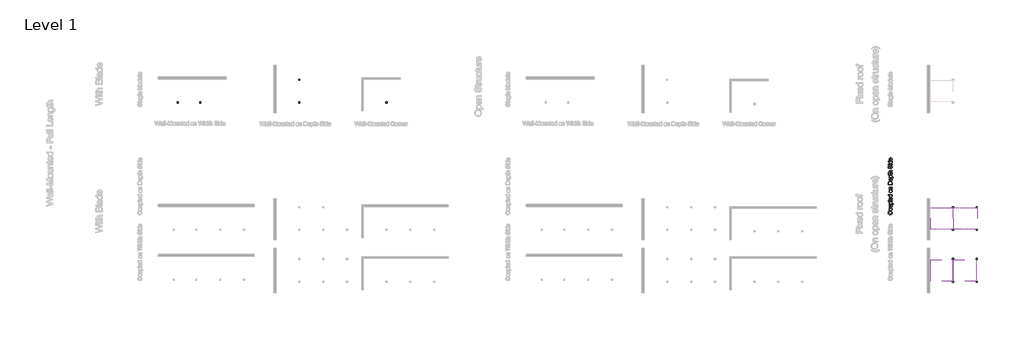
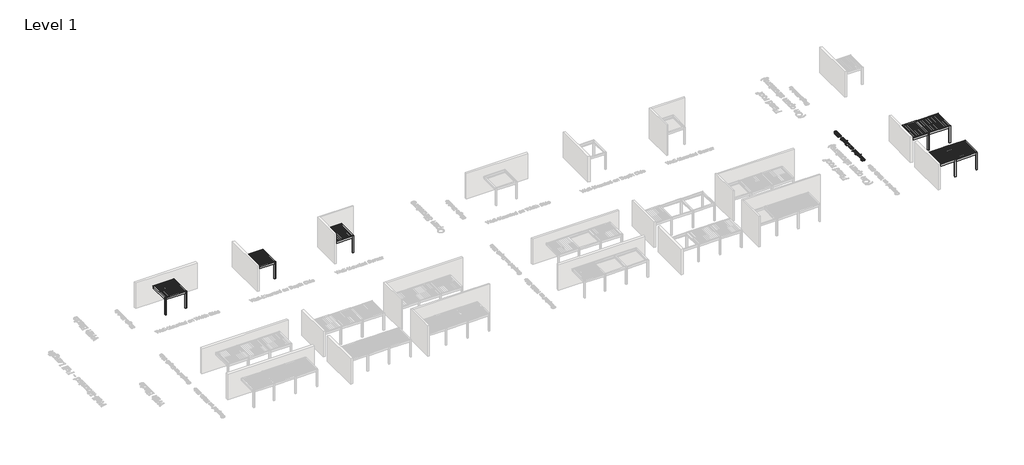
# One storey, part 69 of 80: 10 proxies.
"""IFC4 building model written with IfcOpenShell, lengths in millimetres."""

from ifc_helpers import new_model, si_unit, origin, origin_with_axes, place, context, project, spatial, polyline, outline, extrude, transform, mapped, element, save
from components import generic_models_0899c663, generic_models_97cd0588, generic_models_cd5bc85e, generic_models_6c670f7b, generic_models_b0ea3fea, generic_models_f0f07288, generic_models_2ccb9494

model = new_model("IFC4")

# Units and contexts
model_context = context("Model", 3, world=origin())
ifc_project = project(units=[si_unit("LENGTHUNIT", "METRE", prefix="MILLI")], contexts=[model_context])

# Site, building, storey
site = spatial("IfcSite", under=ifc_project)
building = spatial("IfcBuilding", under=site)
storey = spatial("IfcBuildingStorey", under=building, Name="Level 1", Elevation=0.0)

# Proxies
placement = place(None, origin())
generic_models_shape = generic_models_0899c663(model_context)
element("IfcBuildingElementProxy", 1, Name="Renson_Amani_Fixed_Roof : Renson_Amani_Fixed_Roof", ObjectType="Renson_Amani_Fixed_Roof : Renson_Amani_Fixed_Roof", at=placement, inside=storey, context=model_context, shape_type="MappedRepresentation", body=[
    mapped(generic_models_shape, transform((225303.165057, 50159.4960358, 0.0), x_axis=(1.0, 0.0, 0.0), y_axis=(0.0, 1.0, 0.0), z_axis=(0.0, 0.0, 1.0))),
])
element("IfcBuildingElementProxy", 2, Name="Renson_Amani_Fixed_Roof : Renson_Amani_Fixed_Roof", ObjectType="Renson_Amani_Fixed_Roof : Renson_Amani_Fixed_Roof", at=placement, inside=storey, context=model_context, shape_type="MappedRepresentation", body=[
    mapped(generic_models_shape, transform((225303.165057, 46334.0685101, 0.0), x_axis=(0.0, -1.0, 0.0), y_axis=(1.0, 0.0, 0.0), z_axis=(0.0, 0.0, 1.0))),
])
generic_models_2_shape = generic_models_97cd0588(model_context)
element("IfcBuildingElementProxy", 3, Name="Renson_Amani_Fixed_Roof : Renson_Amani_Fixed_Roof", ObjectType="Renson_Amani_Fixed_Roof : Renson_Amani_Fixed_Roof", at=placement, inside=storey, context=model_context, shape_type="MappedRepresentation", body=[
    mapped(generic_models_2_shape, transform((228153.165057, 46334.0685101, 0.0), x_axis=(0.0, -1.0, 0.0), y_axis=(1.0, 0.0, 0.0), z_axis=(0.0, 0.0, 1.0))),
])
generic_models_3_shape = generic_models_cd5bc85e(model_context)
element("IfcBuildingElementProxy", 4, Name="Renson_Amani_Fixed_Roof : Renson_Amani_Fixed_Roof", ObjectType="Renson_Amani_Fixed_Roof : Renson_Amani_Fixed_Roof", at=placement, inside=storey, context=model_context, shape_type="MappedRepresentation", body=[
    mapped(generic_models_3_shape, transform((228153.165057, 50159.4960358, 0.0), x_axis=(1.0, 0.0, 0.0), y_axis=(0.0, 1.0, 0.0), z_axis=(0.0, 0.0, 1.0))),
])
generic_models_4_shape = generic_models_6c670f7b(model_context)
element("IfcBuildingElementProxy", 5, Name="Renson_Amani_Patio_Cover : Renson_Amani_Patio_Cover", ObjectType="Renson_Amani_Patio_Cover : Renson_Amani_Patio_Cover", at=placement, inside=storey, context=model_context, shape_type="MappedRepresentation", body=[
    mapped(generic_models_4_shape, transform((131953.165057, 67528.5861401, 0.0), x_axis=(1.0, 0.0, 0.0), y_axis=(0.0, 1.0, 0.0), z_axis=(0.0, 0.0, 1.0))),
])
generic_models_5_shape = generic_models_b0ea3fea(model_context)
element("IfcBuildingElementProxy", 6, Name="Renson_Amani_Patio_Cover : Renson_Amani_Patio_Cover", ObjectType="Renson_Amani_Patio_Cover : Renson_Amani_Patio_Cover", at=placement, inside=storey, context=model_context, shape_type="MappedRepresentation", body=[
    mapped(generic_models_5_shape, transform((144410.3328818, 67528.5861401, 0.0), x_axis=(1.0, 0.0, 0.0), y_axis=(0.0, 1.0, 0.0), z_axis=(0.0, 0.0, 1.0))),
])
generic_models_6_shape = generic_models_f0f07288(model_context)
element("IfcBuildingElementProxy", 7, Name="Renson_Amani_Patio_Cover : Renson_Amani_Patio_Cover", ObjectType="Renson_Amani_Patio_Cover : Renson_Amani_Patio_Cover", at=placement, inside=storey, context=model_context, shape_type="MappedRepresentation", body=[
    mapped(generic_models_6_shape, transform((155374.0111744, 67528.5861401, 0.0), x_axis=(1.0, 0.0, 0.0), y_axis=(0.0, 1.0, 0.0), z_axis=(0.0, 0.0, 1.0))),
])
generic_models_7_shape = generic_models_2ccb9494(model_context)
element("IfcBuildingElementProxy", 8, Name="Renson_Amani_Patio_Cover : Renson_Amani_Patio_Cover", ObjectType="Renson_Amani_Patio_Cover : Renson_Amani_Patio_Cover", at=placement, inside=storey, context=model_context, shape_type="MappedRepresentation", body=[
    mapped(generic_models_7_shape, transform((226653.165057, 51509.4960358, 0.0), x_axis=(1.0, 0.0, 0.0), y_axis=(0.0, 1.0, 0.0), z_axis=(0.0, 0.0, 1.0))),
])
element("IfcBuildingElementProxy", 9, Name="Renson_Amani_Patio_Cover : Renson_Amani_Patio_Cover", ObjectType="Renson_Amani_Patio_Cover : Renson_Amani_Patio_Cover", at=placement, inside=storey, context=model_context, shape_type="MappedRepresentation", body=[
    mapped(generic_models_7_shape, transform((226653.165057, 44984.0685101, 0.0), x_axis=(1.0, 0.0, 0.0), y_axis=(0.0, 1.0, 0.0), z_axis=(0.0, 0.0, 1.0))),
])
element("IfcBuildingElementProxy", 10, Name="500mm Arial", ObjectType="500mm Arial", at=placement, inside=storey, context=model_context, shape_type="SweptSolid", body=[
    extrude(outline(polyline([(220234.4472638, 52366.9601072), (220250.6340716, 52429.7453011), (220289.6793805, 52417.3216195), (220323.7966034, 52400.7745939), (220352.9857405, 52380.1042243), (220377.2467916, 52355.3105107), (220396.3191738, 52326.9529402), (220409.942304, 52295.5910002), (220418.116182, 52261.2246904), (220420.8408081, 52223.8540111), (220418.779136, 52185.5674589), (220412.59412, 52151.0287045), (220402.2857599, 52120.2377479), (220387.8540558, 52093.1945891), (220369.5136055, 52069.5275141), (220347.4790069, 52048.8648087), (220321.7502598, 52031.206473), (220292.3273644, 52016.5525068), (220260.4825792, 52005.0446982), (220227.4881628, 51996.8248348), (220193.3441151, 51991.8929168), (220158.0504362, 51990.2489442), (220120.1815833, 51992.1075147), (220084.8112623, 51997.6832261), (220051.9394732, 52006.9760786), (220021.566216, 52019.9860721), (219994.1934963, 52036.4219667), (219970.3233197, 52055.9925224), (219949.9556863, 52078.6977393), (219933.0905961, 52104.5376173), (219919.8660048, 52132.6346047), (219910.4198682, 52162.1111496), (219904.7521862, 52192.9672519), (219902.8629589, 52225.2029117), (219905.3078413, 52261.1135594), (219912.6424886, 52294.0428301), (219924.8669007, 52323.9907238), (219941.9810777, 52350.9572404), (219963.5328312, 52374.497856), (219989.0699731, 52394.1680465), (220018.5925032, 52409.9678117), (220052.1004216, 52421.8971518), (220067.060956, 52359.111958), (220042.3707092, 52349.2251294), (220021.2749761, 52337.3456066), (220003.7737566, 52323.4733897), (219989.8670507, 52307.6084787), (219979.2712828, 52289.658903), (219971.7028772, 52269.5326922), (219967.1618338, 52247.2298462), (219965.6481527, 52222.7503651), (219967.3266143, 52194.5843999), (219972.3619991, 52168.824996), (219980.7543071, 52145.4721535), (219992.5035383, 52124.5258724), (220007.0808624, 52106.2505679), (220023.9574489, 52090.9106551), (220043.1332979, 52078.5061341), (220064.6084094, 52069.0370048), (220110.563002, 52057.0348547), (220157.9278088, 52053.034138), (220215.9305368, 52057.7706187), (220266.0851154, 52071.9800608), (220287.7403358, 52082.771266), (220306.4754928, 52096.1989588), (220322.2905865, 52112.2631392), (220335.1856169, 52130.9638073), (220352.3381149, 52172.6417717), (220358.0556142, 52217.6000172), (220356.1089053, 52244.8960948), (220350.2687787, 52270.0078731), (220340.5352342, 52292.935352), (220326.908272, 52313.6785316), (220309.4492056, 52331.7469025), (220288.2193488, 52346.6499554), (220263.2187015, 52358.3876903), (220234.4472638, 52366.9601072)])), origin_with_axes(), (0.0, 0.0, 1.0), 5.0),
    extrude(outline(polyline([(220228.5611519, 52492.5304949), (220180.790142, 52495.9257392), (220139.6256796, 52506.1114719), (220105.0677647, 52523.0876931), (220077.1163972, 52546.8544029), (220059.2511278, 52570.782061), (220046.4902211, 52597.1929225), (220038.8336771, 52626.0869876), (220036.2814958, 52657.4642561), (220039.3893322, 52692.1026452), (220048.7128415, 52723.4224321), (220064.2520237, 52751.4236169), (220086.0068788, 52776.1061995), (220113.2416427, 52796.2515709), (220145.2205516, 52810.6411218), (220181.9436053, 52819.2748524), (220223.410804, 52822.1527626), (220286.8397913, 52817.0637283), (220312.8751067, 52810.7024355), (220335.1243032, 52801.7966255), (220354.3423053, 52790.4574294), (220371.2840376, 52776.7959783), (220385.9495001, 52760.812272), (220398.3386927, 52742.5063106), (220415.2152792, 52701.7787081), (220420.8408081, 52657.4642561), (220417.7444679, 52622.3200292), (220408.4554476, 52590.7090024), (220392.9737469, 52562.6311755), (220371.299366, 52538.0865486), (220343.8001869, 52518.1557751), (220310.8440915, 52503.9195083), (220272.4310798, 52495.3777483), (220228.5611519, 52492.5304949)]), holes=[polyline([(220228.4385246, 52555.3156888), (220258.892256, 52557.1321061), (220285.2609644, 52562.5813582), (220307.5446499, 52571.6634449), (220325.7433123, 52584.3783664), (220339.8799444, 52599.8447386), (220349.9775387, 52617.1811776), (220356.0360954, 52636.3876834), (220358.0556142, 52657.4642561), (220356.024599, 52678.4335298), (220349.9315535, 52697.5633936), (220339.7764776, 52714.8538473), (220325.5593713, 52730.3048911), (220307.1806, 52743.0198126), (220284.5405289, 52752.1018993), (220257.639158, 52757.5511514), (220226.4764873, 52759.3675687), (220196.9884461, 52757.5396551), (220171.3095164, 52752.0559141), (220149.4396982, 52742.9163458), (220131.3789915, 52730.1209501), (220117.2423594, 52714.6124248), (220107.1447651, 52697.3334673), (220101.0862085, 52678.2840777), (220099.0666896, 52657.4642561), (220101.0785443, 52636.3876834), (220107.1141083, 52617.1811776), (220117.1733816, 52599.8447386), (220131.2563642, 52584.3783664), (220149.4013772, 52571.6634449), (220171.6467416, 52562.5813582), (220197.9924574, 52557.1321061), (220228.4385246, 52555.3156888)])]), origin_with_axes(), (0.0, 0.0, 1.0), 5.0),
    extrude(outline(polyline([(220412.9926588, 53128.2305826), (220349.5943283, 53128.2305826), (220380.7646632, 53105.5138694), (220403.0291881, 53079.0570226), (220416.3879031, 53048.8600421), (220420.8408081, 53014.9229281), (220417.7138111, 52984.3427372), (220408.3328202, 52955.8778678), (220394.2306771, 52931.996195), (220376.9402233, 52915.1655937), (220355.9402927, 52903.8378939), (220330.7097192, 52896.4649256), (220272.3391093, 52892.7861057), (220044.129645, 52892.7861057), (220044.129645, 52955.5712995), (220242.7859224, 52955.5712995), (220306.7973896, 52959.3727468), (220328.1498737, 52968.5238114), (220344.3826667, 52984.2047815), (220354.6373773, 53005.3733246), (220358.0556142, 53030.9871085), (220354.5607353, 53058.0724204), (220344.0760984, 53083.4102928), (220327.5673939, 53104.3029245), (220306.0003119, 53118.052514), (220276.4624534, 53125.6860654), (220236.0414192, 53128.2305826), (220044.129645, 53128.2305826), (220044.129645, 53191.0157764), (220412.9926588, 53191.0157764), (220412.9926588, 53128.2305826)])), origin_with_axes(), (0.0, 0.0, 1.0), 5.0),
    extrude(outline(polyline([(220554.259345, 53277.345418), (220044.129645, 53277.345418), (220044.129645, 53340.1306118), (220105.6885655, 53340.1306118), (220075.3229725, 53360.6093762), (220053.6332632, 53383.5406872), (220040.6194376, 53410.2734455), (220036.2814958, 53442.1565518), (220037.799009, 53464.0531947), (220042.3515487, 53484.6162654), (220049.9391148, 53503.8457639), (220060.5617075, 53521.7416901), (220073.943415, 53537.9131695), (220089.8083261, 53551.9693274), (220128.9877586, 53573.7356787), (220175.2489195, 53586.8874601), (220225.7407233, 53591.2713872), (220279.4361662, 53586.3203087), (220327.460095, 53571.4670731), (220348.735937, 53560.4459417), (220367.3752914, 53547.1868614), (220383.3781582, 53531.6898324), (220396.7445374, 53513.9548545), (220414.8167404, 53475.2506029), (220420.8408081, 53434.5536572), (220416.8094345, 53405.690249), (220404.7153139, 53379.9231809), (220386.4591699, 53357.8655896), (220363.9417261, 53340.1306118), (220554.259345, 53340.1306118), (220554.259345, 53277.345418)]), holes=[polyline([(220231.5042079, 53340.1306118), (220261.762502, 53341.8282339), (220287.7901531, 53346.9211003), (220309.5871614, 53355.4092109), (220327.1535266, 53367.2925658), (220340.6731899, 53381.5978104), (220350.3300923, 53397.3515905), (220356.1242337, 53414.5539058), (220358.0556142, 53433.2047566), (220356.0552559, 53452.1238546), (220350.0541808, 53469.6404025), (220340.0523891, 53485.7544003), (220326.0498806, 53500.465848), (220307.8473861, 53512.7247491), (220285.245636, 53521.481107), (220258.2446304, 53526.7349217), (220226.8443693, 53528.4861933), (220196.8466583, 53526.7770749), (220170.8649923, 53521.6497196), (220148.8993715, 53513.1041274), (220130.9497959, 53501.1402984), (220117.0009369, 53486.8005648), (220107.0374662, 53471.1272589), (220101.0593838, 53454.1203808), (220099.0666896, 53435.7799305), (220101.1858432, 53417.4969618), (220107.5433039, 53400.2946464), (220118.1390718, 53384.1729844), (220132.9731468, 53369.1319758), (220151.8462596, 53356.443879), (220174.5591407, 53347.3809528), (220201.1117901, 53341.943197), (220231.5042079, 53340.1306118)])]), origin_with_axes(), (0.0, 0.0, 1.0), 5.0),
    extrude(outline(polyline([(220412.9926588, 53661.9047302), (219910.7111081, 53661.9047302), (219910.7111081, 53724.6899241), (220412.9926588, 53724.6899241), (220412.9926588, 53661.9047302)])), origin_with_axes(), (0.0, 0.0, 1.0), 5.0),
    extrude(outline(polyline([(220303.1185696, 54077.1208755), (220310.9667188, 54138.679796), (220335.6224767, 54129.2413236), (220357.3505071, 54116.4995774), (220376.1508099, 54100.4545574), (220392.0233851, 54081.1062638), (220404.6310077, 54058.6539657), (220413.6364523, 54033.2969328), (220419.0397191, 54005.0351649), (220420.8408081, 53973.8686622), (220417.7329716, 53934.9114917), (220408.4094623, 53900.2002926), (220392.8702801, 53869.7350649), (220371.115425, 53843.5158085), (220343.7503696, 53822.4315717), (220311.3805861, 53807.3714025), (220274.0060746, 53798.335301), (220231.6268352, 53795.3232672), (220187.8105567, 53798.3659578), (220149.1906115, 53807.4940298), (220115.7669994, 53822.7074832), (220087.5397204, 53844.0063179), (220065.1142471, 53870.1565963), (220049.0960519, 53899.9243811), (220039.4851348, 53933.3096722), (220036.2814958, 53970.3124695), (220039.4774706, 54006.1234825), (220049.0653951, 54038.5085944), (220065.0452693, 54067.4678052), (220087.4170931, 54093.0011149), (220115.5830584, 54113.8439292), (220148.9453568, 54128.7316537), (220187.5039884, 54137.6642884), (220231.2589532, 54140.6418333), (220248.181525, 54140.2739513), (220248.181525, 53858.108461), (220273.2358217, 53861.7451278), (220295.1784499, 53868.9763083), (220314.0094095, 53879.8020024), (220329.7287006, 53894.2222102), (220342.1217253, 53911.439854), (220350.9738858, 53930.6578561), (220356.2851821, 53951.8762166), (220358.0556142, 53975.0949355), (220354.7753331, 54008.5108834), (220344.9344897, 54036.653856), (220327.9199474, 54059.5238534), (220303.1185696, 54077.1208755)]), holes=[polyline([(220185.3963312, 53858.108461), (220185.3963312, 54077.8566395), (220152.2256379, 54069.3646967), (220128.4972492, 54052.7180365), (220115.6213794, 54035.5961953), (220106.4243295, 54016.1137779), (220100.9060996, 53994.2707845), (220099.0666896, 53970.0672149), (220104.9374731, 53927.745457), (220112.2759525, 53909.3321967), (220122.5498236, 53892.7506822), (220135.2839056, 53878.8363122), (220150.0030175, 53868.4244853), (220166.7071594, 53861.5152016), (220185.3963312, 53858.108461)])]), origin_with_axes(), (0.0, 0.0, 1.0), 5.0),
    extrude(outline(polyline([(220412.9926588, 54431.0233548), (220353.7636576, 54431.0233548), (220383.1099109, 54412.2383805), (220404.0715205, 54389.4833462), (220416.6484862, 54362.7582521), (220420.8408081, 54332.0630981), (220414.7707551, 54291.4734513), (220396.5605964, 54254.3173698), (220367.4825903, 54222.8634592), (220328.8089956, 54199.3803252), (220282.1033106, 54184.7570159), (220228.9290339, 54179.8825795), (220176.4138791, 54184.3738055), (220128.9877586, 54197.8474836), (220107.8575365, 54207.94891), (220089.3484736, 54220.2882853), (220073.4605699, 54234.8656093), (220060.1938255, 54251.6808822), (220042.2595782, 54289.6493698), (220036.2814958, 54331.8178435), (220040.558124, 54362.5359901), (220053.3880085, 54389.697944), (220073.0543669, 54412.7212256), (220097.8404163, 54431.0233548), (219910.7111081, 54431.0233548), (219910.7111081, 54493.8085487), (220412.9926588, 54493.8085487), (220412.9926588, 54431.0233548)]), holes=[polyline([(220228.6837793, 54242.6677733), (220259.1298465, 54244.4382054), (220285.4755623, 54249.7495017), (220307.7209267, 54258.6016622), (220325.8659396, 54270.9946869), (220339.9489223, 54285.794273), (220350.0081956, 54301.8661177), (220356.0437596, 54319.2102209), (220358.0556142, 54337.8265827), (220356.1357301, 54356.5310829), (220350.3760776, 54373.7717193), (220340.7766568, 54389.548492), (220327.3374676, 54403.8614009), (220309.9512112, 54415.7447557), (220288.5105887, 54424.2328663), (220263.0156, 54429.3257327), (220233.4662452, 54431.0233548), (220201.069637, 54429.2950759), (220173.2868821, 54424.110239), (220150.1179807, 54415.4688442), (220131.5629325, 54403.3708915), (220117.3458263, 54388.7437501), (220107.1907503, 54372.5147892), (220101.0977048, 54354.6840087), (220099.0666896, 54335.2514088), (220101.0172306, 54316.267165), (220106.8688536, 54298.9230617), (220116.6215586, 54283.2190991), (220130.2753455, 54269.155277), (220148.1291186, 54257.5669941), (220170.4817819, 54249.2896492), (220197.3333355, 54244.3232423), (220228.6837793, 54242.6677733)])]), origin_with_axes(), (0.0, 0.0, 1.0), 5.0),
    extrude(outline(polyline([(220228.5611519, 54768.4937717), (220180.790142, 54771.889016), (220139.6256796, 54782.0747487), (220105.0677647, 54799.05097), (220077.1163972, 54822.8176797), (220059.2511278, 54846.7453378), (220046.4902211, 54873.1561994), (220038.8336771, 54902.0502644), (220036.2814958, 54933.4275329), (220039.3893322, 54968.065922), (220048.7128415, 54999.385709), (220064.2520237, 55027.3868937), (220086.0068788, 55052.0694764), (220113.2416427, 55072.2148477), (220145.2205516, 55086.6043987), (220181.9436053, 55095.2381292), (220223.410804, 55098.1160394), (220286.8397913, 55093.0270052), (220312.8751067, 55086.6657123), (220335.1243032, 55077.7599024), (220354.3423053, 55066.4207063), (220371.2840376, 55052.7592551), (220385.9495001, 55036.7755488), (220398.3386927, 55018.4695875), (220415.2152792, 54977.7419849), (220420.8408081, 54933.4275329), (220417.7444679, 54898.2833061), (220408.4554476, 54866.6722792), (220392.9737469, 54838.5944523), (220371.299366, 54814.0498255), (220343.8001869, 54794.119052), (220310.8440915, 54779.8827852), (220272.4310798, 54771.3410251), (220228.5611519, 54768.4937717)]), holes=[polyline([(220228.4385246, 54831.2789656), (220258.892256, 54833.0953829), (220285.2609644, 54838.544635), (220307.5446499, 54847.6267217), (220325.7433123, 54860.3416432), (220339.8799444, 54875.8080154), (220349.9775387, 54893.1444544), (220356.0360954, 54912.3509603), (220358.0556142, 54933.4275329), (220356.024599, 54954.3968066), (220349.9315535, 54973.5266704), (220339.7764776, 54990.8171242), (220325.5593713, 55006.268168), (220307.1806, 55018.9830894), (220284.5405289, 55028.0651762), (220257.639158, 55033.5144282), (220226.4764873, 55035.3308456), (220196.9884461, 55033.5029319), (220171.3095164, 55028.0191909), (220149.4396982, 55018.8796226), (220131.3789915, 55006.084227), (220117.2423594, 54990.5757016), (220107.1447651, 54973.2967441), (220101.0862085, 54954.2473546), (220099.0666896, 54933.4275329), (220101.0785443, 54912.3509603), (220107.1141083, 54893.1444544), (220117.1733816, 54875.8080154), (220131.2563642, 54860.3416432), (220149.4013772, 54847.6267217), (220171.6467416, 54838.544635), (220197.9924574, 54833.0953829), (220228.4385246, 54831.2789656)])]), origin_with_axes(), (0.0, 0.0, 1.0), 5.0),
    extrude(outline(polyline([(220412.9926588, 55168.7493825), (220044.129645, 55168.7493825), (220044.129645, 55231.5345763), (220095.6331243, 55231.5345763), (220069.6667868, 55253.346913), (220051.1194029, 55279.5431767), (220039.9909726, 55310.1233676), (220036.2814958, 55345.0874855), (220039.270537, 55376.0355584), (220048.2376606, 55404.3778004), (220062.0638923, 55428.0142186), (220079.6302575, 55444.8448199), (220100.8907712, 55456.2644901), (220125.7994479, 55463.6681153), (220186.4999771, 55466.9790532), (220412.9926588, 55466.9790532), (220412.9926588, 55404.1938594), (220194.961263, 55404.1938594), (220162.495677, 55402.3851063), (220139.4110818, 55396.9588468), (220122.8717204, 55386.9493909), (220110.0418358, 55371.3910482), (220101.8104762, 55351.4487783), (220099.0666896, 55328.2875411), (220100.6071955, 55309.2228231), (220105.228713, 55291.51467), (220112.9312423, 55275.1630817), (220123.7147833, 55260.1680583), (220138.8056093, 55247.6409099), (220159.4299937, 55238.6929468), (220185.5879364, 55233.324169), (220217.2794374, 55231.5345763), (220412.9926588, 55231.5345763), (220412.9926588, 55168.7493825)])), origin_with_axes(), (0.0, 0.0, 1.0), 5.0),
    extrude(outline(polyline([(220412.9926588, 55757.3605748), (219910.7111081, 55757.3605748), (219910.7111081, 55930.6329945), (219912.5198612, 55982.4123853), (219917.9461207, 56020.273574), (219931.8949796, 56060.3113978), (219953.8759289, 56094.0952277), (219971.840833, 56112.7115895), (219992.1356564, 56128.8294194), (220014.7603991, 56142.4487174), (220039.7150611, 56153.5694836), (220095.694438, 56168.3767339), (220159.1540822, 56173.312484), (220213.0641229, 56169.9708892), (220260.5055718, 56159.9461048), (220300.8959492, 56144.679002), (220333.6527752, 56125.6104519), (220359.5118138, 56103.6601596), (220379.2088289, 56079.7478299), (220393.8168098, 56052.294636), (220404.4087456, 56019.721751), (220410.8466805, 55981.9678612), (220412.9926588, 55938.9716531), (220412.9926588, 55757.3605748)]), holes=[polyline([(220350.207465, 55820.1457686), (220350.207465, 55931.2461312), (220347.9388594, 55977.2007237), (220341.1330424, 56012.0575428), (220330.1885531, 56038.3611054), (220315.5039301, 56058.6559288), (220288.3266477, 56080.4682655), (220253.1479319, 56096.8543427), (220209.8144986, 56107.1090533), (220158.1730635, 56110.5272901), (220121.7220892, 56108.8526606), (220089.7470124, 56103.8287721), (220062.2478333, 56095.4556247), (220039.2245517, 56083.7332182), (220020.1560017, 56069.6119145), (220004.5210169, 56054.0420755), (219992.3195973, 56037.0237011), (219983.5517431, 56018.5567913), (219976.0101622, 55982.4430422), (219973.4963019, 55929.5293485), (219973.4963019, 55820.1457686), (220350.207465, 55820.1457686)])]), origin_with_axes(), (0.0, 0.0, 1.0), 5.0),
    extrude(outline(polyline([(220303.1185696, 56510.0471369), (220310.9667188, 56571.6060574), (220335.6224767, 56562.167585), (220357.3505071, 56549.4258388), (220376.1508099, 56533.3808189), (220392.0233851, 56514.0325252), (220404.6310077, 56491.5802272), (220413.6364523, 56466.2231942), (220419.0397191, 56437.9614264), (220420.8408081, 56406.7949236), (220417.7329716, 56367.8377531), (220408.4094623, 56333.1265541), (220392.8702801, 56302.6613263), (220371.115425, 56276.44207), (220343.7503696, 56255.3578331), (220311.3805861, 56240.2976639), (220274.0060746, 56231.2615624), (220231.6268352, 56228.2495286), (220187.8105567, 56231.2922193), (220149.1906115, 56240.4202913), (220115.7669994, 56255.6337446), (220087.5397204, 56276.9325793), (220065.1142471, 56303.0828578), (220049.0960519, 56332.8506426), (220039.4851348, 56366.2359336), (220036.2814958, 56403.238731), (220039.4774706, 56439.0497439), (220049.0653951, 56471.4348558), (220065.0452693, 56500.3940666), (220087.4170931, 56525.9273764), (220115.5830584, 56546.7701907), (220148.9453568, 56561.6579151), (220187.5039884, 56570.5905498), (220231.2589532, 56573.5680947), (220248.181525, 56573.2002127), (220248.181525, 56291.0347224), (220273.2358217, 56294.6713893), (220295.1784499, 56301.9025697), (220314.0094095, 56312.7282638), (220329.7287006, 56327.1484716), (220342.1217253, 56344.3661154), (220350.9738858, 56363.5841176), (220356.2851821, 56384.8024781), (220358.0556142, 56408.0211969), (220354.7753331, 56441.4371448), (220344.9344897, 56469.5801174), (220327.9199474, 56492.4501148), (220303.1185696, 56510.0471369)]), holes=[polyline([(220185.3963312, 56291.0347224), (220185.3963312, 56510.7829009), (220152.2256379, 56502.2909582), (220128.4972492, 56485.6442979), (220115.6213794, 56468.5224567), (220106.4243295, 56449.0400394), (220100.9060996, 56427.1970459), (220099.0666896, 56402.9934763), (220104.9374731, 56360.6717184), (220112.2759525, 56342.2584582), (220122.5498236, 56325.6769437), (220135.2839056, 56311.7625736), (220150.0030175, 56301.3507467), (220166.7071594, 56294.441463), (220185.3963312, 56291.0347224)])]), origin_with_axes(), (0.0, 0.0, 1.0), 5.0),
    extrude(outline(polyline([(220554.259345, 56636.3532886), (220044.129645, 56636.3532886), (220044.129645, 56699.1384824), (220105.6885655, 56699.1384824), (220075.3229725, 56719.6172468), (220053.6332632, 56742.5485579), (220040.6194376, 56769.2813162), (220036.2814958, 56801.1644224), (220037.799009, 56823.0610653), (220042.3515487, 56843.624136), (220049.9391148, 56862.8536345), (220060.5617075, 56880.7495607), (220073.943415, 56896.9210401), (220089.8083261, 56910.977198), (220128.9877586, 56932.7435494), (220175.2489195, 56945.8953307), (220225.7407233, 56950.2792578), (220279.4361662, 56945.3281793), (220327.460095, 56930.4749437), (220348.735937, 56919.4538123), (220367.3752914, 56906.194732), (220383.3781582, 56890.697703), (220396.7445374, 56872.9627251), (220414.8167404, 56834.2584736), (220420.8408081, 56793.5615279), (220416.8094345, 56764.6981197), (220404.7153139, 56738.9310516), (220386.4591699, 56716.8734603), (220363.9417261, 56699.1384824), (220554.259345, 56699.1384824), (220554.259345, 56636.3532886)]), holes=[polyline([(220231.5042079, 56699.1384824), (220261.762502, 56700.8361045), (220287.7901531, 56705.9289709), (220309.5871614, 56714.4170815), (220327.1535266, 56726.3004364), (220340.6731899, 56740.6056811), (220350.3300923, 56756.3594611), (220356.1242337, 56773.5617765), (220358.0556142, 56792.2126272), (220356.0552559, 56811.1317252), (220350.0541808, 56828.6482731), (220340.0523891, 56844.762271), (220326.0498806, 56859.4737187), (220307.8473861, 56871.7326197), (220285.245636, 56880.4889776), (220258.2446304, 56885.7427924), (220226.8443693, 56887.494064), (220196.8466583, 56885.7849455), (220170.8649923, 56880.6575902), (220148.8993715, 56872.111998), (220130.9497959, 56860.148169), (220117.0009369, 56845.8084354), (220107.0374662, 56830.1351295), (220101.0593838, 56813.1282515), (220099.0666896, 56794.7878012), (220101.1858432, 56776.5048324), (220107.5433039, 56759.3025171), (220118.1390718, 56743.180855), (220132.9731468, 56728.1398464), (220151.8462596, 56715.4517496), (220174.5591407, 56706.3888234), (220201.1117901, 56700.9510677), (220231.5042079, 56699.1384824)])]), origin_with_axes(), (0.0, 0.0, 1.0), 5.0),
    extrude(outline(polyline([(220360.6307882, 57154.3311378), (220414.8320688, 57162.179287), (220420.8408081, 57115.213019), (220418.2349773, 57085.0773522), (220410.4174849, 57062.6058937), (220398.3693495, 57046.7256542), (220383.0715899, 57036.3636447), (220356.7986841, 57030.6614737), (220311.8251102, 57028.7607501), (220106.9148388, 57028.7607501), (220106.9148388, 56981.6718547), (220044.129645, 56981.6718547), (220044.129645, 57028.7607501), (219954.4890655, 57028.7607501), (219917.5782387, 57091.5459439), (220044.129645, 57091.5459439), (220044.129645, 57154.3311378), (220106.9148388, 57154.3311378), (220106.9148388, 57091.5459439), (220309.9857002, 57091.5459439), (220342.3593158, 57094.8568819), (220353.8249713, 57105.5867734), (220358.0556142, 57126.9852428), (220360.6307882, 57154.3311378)])), origin_with_axes(), (0.0, 0.0, 1.0), 5.0),
    extrude(outline(polyline([(220412.9926588, 57217.1163316), (219910.7111081, 57217.1163316), (219910.7111081, 57279.9015255), (220095.3878697, 57279.9015255), (220069.5288311, 57302.9631281), (220051.0580892, 57328.8604877), (220039.9756441, 57357.5936043), (220036.2814958, 57389.162478), (220040.3128693, 57427.0849804), (220052.4069899, 57459.6731938), (220071.6134957, 57485.332963), (220096.982025, 57502.4701326), (220131.838844, 57512.1270349), (220179.5102192, 57515.3460024), (220412.9926588, 57515.3460024), (220412.9926588, 57452.5608085), (220186.0094678, 57452.5608085), (220146.707408, 57447.5637448), (220131.7008883, 57441.3174151), (220119.7907087, 57432.5725535), (220110.7239503, 57421.5360936), (220104.2476944, 57408.4149691), (220099.0666896, 57375.9187262), (220102.5615686, 57349.3852373), (220113.0462054, 57324.4765606), (220129.5089247, 57303.844512), (220150.9380509, 57290.1409077), (220179.4182487, 57282.461371), (220217.0341827, 57279.9015255), (220412.9926588, 57279.9015255), (220412.9926588, 57217.1163316)])), origin_with_axes(), (0.0, 0.0, 1.0), 5.0),
    extrude(outline(polyline([(220240.3333758, 57782.1830762), (220240.3333758, 57844.9682701), (220275.1748664, 57852.1726258), (220303.1798833, 57865.2017798), (220325.4060871, 57885.52726), (220342.9111388, 57914.6205945), (220354.2694954, 57950.1825207), (220358.0556142, 57989.9137762), (220355.1892003, 58024.8932225), (220346.5899587, 58055.5193986), (220332.9783249, 58080.3361049), (220315.0747345, 58097.8871418), (220294.519328, 58108.3257934), (220272.952246, 58111.8053439), (220251.936987, 58109.1995131), (220233.7728135, 58101.3820207), (220218.2757845, 58085.5017813), (220205.2619589, 58058.7077093), (220181.2883155, 57967.2890335), (220165.4234045, 57907.278283), (220150.3249143, 57868.8805998), (220129.2023564, 57837.6259586), (220103.6039009, 57815.4763968), (220074.0813708, 57802.2786302), (220041.186589, 57797.8793747), (220004.4137179, 57803.3209625), (219970.1240503, 57819.6457261), (219954.5963644, 57831.7819998), (219941.0613727, 57846.4244696), (219919.9694716, 57883.2279976), (219907.139587, 57927.4044938), (219902.8629589, 57976.3021423), (219907.3388565, 58029.2771497), (219920.7665493, 58075.630281), (219942.8701258, 58113.7060675), (219957.0719037, 58129.0191556), (219973.3736746, 58141.8490402), (220010.3764719, 58159.6606601), (220051.9777942, 58166.7423885), (220051.9777942, 58103.9571947), (220031.9435539, 58099.7572086), (220014.5151444, 58092.4302255), (219999.6925657, 58081.9762455), (219987.4758177, 58068.3952685), (219977.9262143, 58051.4343757), (219971.105069, 58030.8406481), (219965.6481527, 57978.754689), (219971.0437553, 57925.4424565), (219977.7882585, 57905.0633268), (219987.2305631, 57888.8688548), (219998.5812555, 57876.5294796), (220011.0509223, 57867.7156401), (220024.6395635, 57862.4273364), (220039.3471791, 57860.6645685), (220063.4741066, 57865.6616323), (220082.8798818, 57880.6528236), (220091.5097803, 57894.4177416), (220100.2316493, 57916.0921225), (220117.9512987, 57983.1692729), (220134.7819, 58052.3924017), (220149.466523, 58094.2696355), (220172.2445498, 58130.0614879), (220200.3568656, 58155.0314783), (220233.496902, 58169.7007729), (220271.3580907, 58174.5905377), (220310.0623423, 58168.9650089), (220346.4673314, 58152.0884224), (220377.7986146, 58124.6505569), (220401.2817487, 58087.3411912), (220415.9510432, 58042.4749162), (220420.8408081, 57992.3663228), (220415.5678328, 57930.8533875), (220408.9766137, 57904.1781108), (220399.748907, 57880.2236279), (220387.8693842, 57858.8443191), (220373.322717, 57839.8945642), (220356.1089053, 57823.3743634), (220336.2279492, 57809.2837165), (220314.323642, 57797.9330241), (220291.0397774, 57789.6326866), (220266.3763553, 57784.382704), (220240.3333758, 57782.1830762)])), origin_with_axes(), (0.0, 0.0, 1.0), 5.0),
    extrude(outline(polyline([(219973.4963019, 58260.9201793), (219910.7111081, 58260.9201793), (219910.7111081, 58323.7053731), (219973.4963019, 58323.7053731), (219973.4963019, 58260.9201793)])), origin_with_axes(), (0.0, 0.0, 1.0), 5.0),
    extrude(outline(polyline([(220412.9926588, 58260.9201793), (220044.129645, 58260.9201793), (220044.129645, 58323.7053731), (220412.9926588, 58323.7053731), (220412.9926588, 58260.9201793)])), origin_with_axes(), (0.0, 0.0, 1.0), 5.0),
    extrude(outline(polyline([(220412.9926588, 58645.4794916), (220353.7636576, 58645.4794916), (220383.1099109, 58626.6945172), (220404.0715205, 58603.939483), (220416.6484862, 58577.2143888), (220420.8408081, 58546.5192349), (220414.7707551, 58505.9295881), (220396.5605964, 58468.7735066), (220367.4825903, 58437.319596), (220328.8089956, 58413.8364619), (220282.1033106, 58399.2131526), (220228.9290339, 58394.3387162), (220176.4138791, 58398.8299422), (220128.9877586, 58412.3036203), (220107.8575365, 58422.4050467), (220089.3484736, 58434.744422), (220073.4605699, 58449.3217461), (220060.1938255, 58466.1370189), (220042.2595782, 58504.1055065), (220036.2814958, 58546.2739802), (220040.558124, 58576.9921268), (220053.3880085, 58604.1540808), (220073.0543669, 58627.1773623), (220097.8404163, 58645.4794916), (219910.7111081, 58645.4794916), (219910.7111081, 58708.2646854), (220412.9926588, 58708.2646854), (220412.9926588, 58645.4794916)]), holes=[polyline([(220228.6837793, 58457.12391), (220259.1298465, 58458.8943421), (220285.4755623, 58464.2056385), (220307.7209267, 58473.057799), (220325.8659396, 58485.4508237), (220339.9489223, 58500.2504098), (220350.0081956, 58516.3222544), (220356.0437596, 58533.6663577), (220358.0556142, 58552.2827195), (220356.1357301, 58570.9872197), (220350.3760776, 58588.2278561), (220340.7766568, 58604.0046287), (220327.3374676, 58618.3175376), (220309.9512112, 58630.2008925), (220288.5105887, 58638.6890031), (220263.0156, 58643.7818695), (220233.4662452, 58645.4794916), (220201.069637, 58643.7512126), (220173.2868821, 58638.5663757), (220150.1179807, 58629.924981), (220131.5629325, 58617.8270283), (220117.3458263, 58603.1998869), (220107.1907503, 58586.9709259), (220101.0977048, 58569.1401455), (220099.0666896, 58549.7075455), (220101.0172306, 58530.7233017), (220106.8688536, 58513.3791985), (220116.6215586, 58497.6752358), (220130.2753455, 58483.6114137), (220148.1291186, 58472.0231308), (220170.4817819, 58463.745786), (220197.3333355, 58458.779379), (220228.6837793, 58457.12391)])]), origin_with_axes(), (0.0, 0.0, 1.0), 5.0),
    extrude(outline(polyline([(220303.1185696, 59060.6956368), (220310.9667188, 59122.2545573), (220335.6224767, 59112.8160849), (220357.3505071, 59100.0743387), (220376.1508099, 59084.0293188), (220392.0233851, 59064.6810251), (220404.6310077, 59042.2287271), (220413.6364523, 59016.8716941), (220419.0397191, 58988.6099263), (220420.8408081, 58957.4434235), (220417.7329716, 58918.486253), (220408.4094623, 58883.775054), (220392.8702801, 58853.3098262), (220371.115425, 58827.0905699), (220343.7503696, 58806.006333), (220311.3805861, 58790.9461638), (220274.0060746, 58781.9100623), (220231.6268352, 58778.8980285), (220187.8105567, 58781.9407192), (220149.1906115, 58791.0687912), (220115.7669994, 58806.2822445), (220087.5397204, 58827.5810792), (220065.1142471, 58853.7313577), (220049.0960519, 58883.4991425), (220039.4851348, 58916.8844335), (220036.2814958, 58953.8872309), (220039.4774706, 58989.6982438), (220049.0653951, 59022.0833557), (220065.0452693, 59051.0425665), (220087.4170931, 59076.5758763), (220115.5830584, 59097.4186905), (220148.9453568, 59112.306415), (220187.5039884, 59121.2390497), (220231.2589532, 59124.2165946), (220248.181525, 59123.8487126), (220248.181525, 58841.6832223), (220273.2358217, 58845.3198891), (220295.1784499, 58852.5510696), (220314.0094095, 58863.3767637), (220329.7287006, 58877.7969715), (220342.1217253, 58895.0146153), (220350.9738858, 58914.2326175), (220356.2851821, 58935.450978), (220358.0556142, 58958.6696968), (220354.7753331, 58992.0856447), (220344.9344897, 59020.2286173), (220327.9199474, 59043.0986147), (220303.1185696, 59060.6956368)]), holes=[polyline([(220185.3963312, 58841.6832223), (220185.3963312, 59061.4314008), (220152.2256379, 59052.9394581), (220128.4972492, 59036.2927978), (220115.6213794, 59019.1709566), (220106.4243295, 58999.6885393), (220100.9060996, 58977.8455458), (220099.0666896, 58953.6419762), (220104.9374731, 58911.3202183), (220112.2759525, 58892.9069581), (220122.5498236, 58876.3254435), (220135.2839056, 58862.4110735), (220150.0030175, 58851.9992466), (220166.7071594, 58845.0899629), (220185.3963312, 58841.6832223)])]), origin_with_axes(), (0.0, 0.0, 1.0), 5.0),
])

save(model, "model.ifc")
